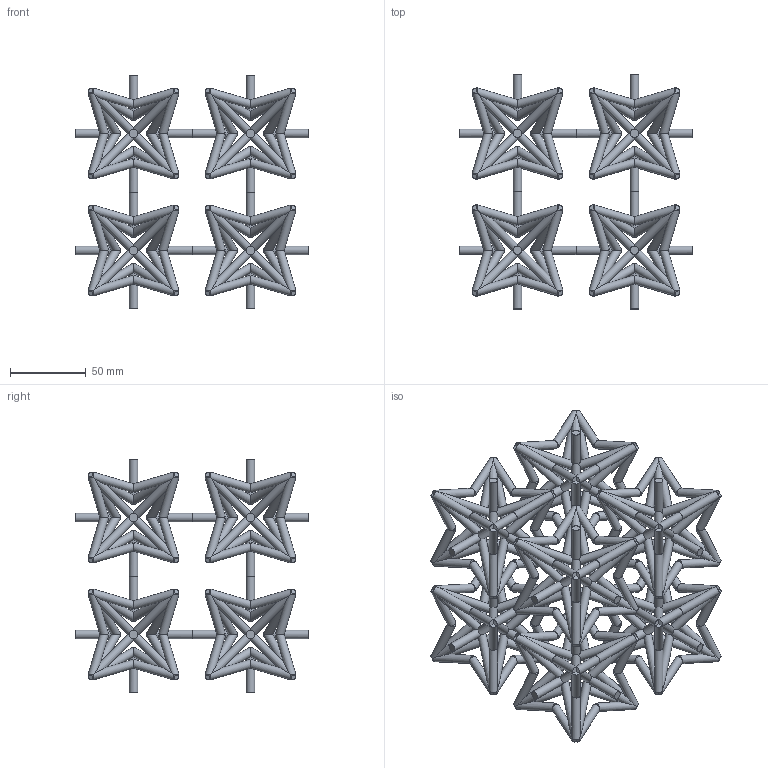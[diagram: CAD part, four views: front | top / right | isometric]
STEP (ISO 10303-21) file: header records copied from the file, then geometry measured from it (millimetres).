
FILE_DESCRIPTION(('Open CASCADE Model'),'2;1');
FILE_NAME('Open CASCADE Shape Model','2026-11-01T13:39:09',('Author'),( 'Open CASCADE'),'Open CASCADE STEP processor 7.8','Open CASCADE 7.8' ,'Unknown');
FILE_SCHEMA(('AUTOMOTIVE_DESIGN { 1 0 10303 214 1 1 1 1 }'));
Products named in the file (1): Open CASCADE STEP translator 7.8 2
Bounding box: 154.2 x 154.2 x 154.2 mm (x, y, z)
Volume: 306243.1 mm3; surface area: 202757.9 mm2
Topology: 1 solids, 1 shells, 1032 faces, 4320 edges, 2912 vertices
Faces by surface type: plane 600, cylinder 432
Full cylindrical faces by diameter (mm): 5.582 x432
Entity records: 131434 total; most frequent: CARTESIAN_POINT 54849, DIRECTION 13226, ORIENTED_EDGE 8640, PCURVE 8640, DEFINITIONAL_REPRESENTATION 8640, B_SPLINE_CURVE_WITH_KNOTS 5208, AXIS2_PLACEMENT_3D 4441, EDGE_CURVE 4320
